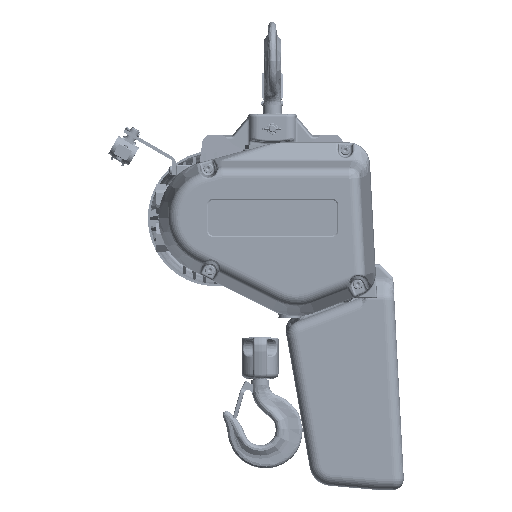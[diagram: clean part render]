
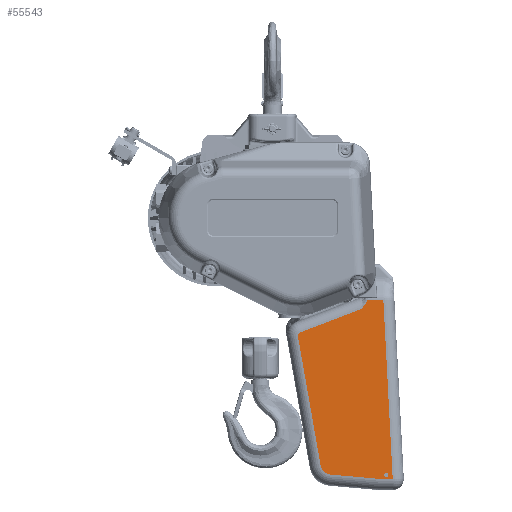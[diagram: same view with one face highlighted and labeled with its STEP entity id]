
A CAD part, top view. The second image highlights one B-rep face of the part: STEP entity #55543.
In plain terms, the highlighted planar face has unit normal (0, 0, 1).
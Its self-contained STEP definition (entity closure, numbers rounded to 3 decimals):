
#3869 = DIRECTION ( 'NONE',  ( 1., 0., 0. ) ) ;
#4990 = CARTESIAN_POINT ( 'NONE',  ( -4.915, -113.056, 70. ) ) ;
#6026 = CARTESIAN_POINT ( 'NONE',  ( 26.4, -100.733, 70. ) ) ;
#9952 = ORIENTED_EDGE ( 'NONE', *, *, #157328, .T. ) ;
#10700 = CARTESIAN_POINT ( 'NONE',  ( 33.958, -90.56, 70. ) ) ;
#13950 = DIRECTION ( 'NONE',  ( 0., 0., 1. ) ) ;
#14604 = FACE_BOUND ( 'NONE', #71183, .T. ) ;
#15780 = PLANE ( 'NONE',  #161063 ) ;
#18148 = CARTESIAN_POINT ( 'NONE',  ( 60., -326., 70. ) ) ;
#19905 = VERTEX_POINT ( 'NONE', #89718 ) ;
#21908 = EDGE_CURVE ( 'NONE', #164823, #30030, #202754, .T. ) ;
#22609 = ORIENTED_EDGE ( 'NONE', *, *, #82495, .T. ) ;
#22758 = LINE ( 'NONE', #205688, #77468 ) ;
#23681 = EDGE_CURVE ( 'NONE', #116251, #206066, #228133, .T. ) ;
#23918 = CARTESIAN_POINT ( 'NONE',  ( 32.1, -93.673, 70. ) ) ;
#25649 = AXIS2_PLACEMENT_3D ( 'NONE', #18148, #36092, #3869 ) ;
#25844 = EDGE_CURVE ( 'NONE', #30030, #164823, #182136, .T. ) ;
#28671 = CARTESIAN_POINT ( 'NONE',  ( 49.259, -331., 70. ) ) ;
#28856 = CARTESIAN_POINT ( 'NONE',  ( -15.387, -325.344, 70. ) ) ;
#29199 = CARTESIAN_POINT ( 'NONE',  ( -54.716, -137.528, 70. ) ) ;
#30030 = VERTEX_POINT ( 'NONE', #178047 ) ;
#31002 = CARTESIAN_POINT ( 'NONE',  ( -59.716, -137.528, 70. ) ) ;
#36092 = DIRECTION ( 'NONE',  ( 0., 0., 1. ) ) ;
#41816 = CARTESIAN_POINT ( 'NONE',  ( 26., -101.188, 70. ) ) ;
#41890 = DIRECTION ( 'NONE',  ( 0.174, -0.985, 0. ) ) ;
#48341 = VERTEX_POINT ( 'NONE', #61382 ) ;
#48426 = DIRECTION ( 'NONE',  ( -0.052, 0.999, 0. ) ) ;
#48946 = CARTESIAN_POINT ( 'NONE',  ( 57., -326., 70. ) ) ;
#50430 = CIRCLE ( 'NONE', #214651, 15. ) ;
#55543 = ADVANCED_FACE ( 'NONE', ( #14604, #213074 ), #15780, .F. ) ;
#59082 = ORIENTED_EDGE ( 'NONE', *, *, #21908, .F. ) ;
#59089 = EDGE_CURVE ( 'NONE', #107550, #139699, #111307, .T. ) ;
#60410 = B_SPLINE_CURVE_WITH_KNOTS ( 'NONE', 3,
 ( #169722, #10700, #156537, #23918, #225907, #229434, #96858, #207970, #65689, #60970, #138497, #6026, #82439, #41816 ),
 .UNSPECIFIED., .F., .F.,
 ( 4, 2, 2, 2, 2, 2, 4 ),
 ( 0., 0.004, 0.007, 0.011, 0.013, 0.014, 0.014 ),
 .UNSPECIFIED. ) ;
#60970 = CARTESIAN_POINT ( 'NONE',  ( 27., -100.048, 70. ) ) ;
#61382 = CARTESIAN_POINT ( 'NONE',  ( 56.038, -89.438, 70. ) ) ;
#62232 = LINE ( 'NONE', #4990, #123736 ) ;
#62828 = LINE ( 'NONE', #175205, #162663 ) ;
#65689 = CARTESIAN_POINT ( 'NONE',  ( 27.598, -99.362, 70. ) ) ;
#65931 = CARTESIAN_POINT ( 'NONE',  ( -56.508, -132.86, 70. ) ) ;
#67249 = CARTESIAN_POINT ( 'NONE',  ( 84.504, -346., 70. ) ) ;
#69923 = CARTESIAN_POINT ( 'NONE',  ( 60., -326., 70. ) ) ;
#71183 = EDGE_LOOP ( 'NONE', ( #130065, #59082 ) ) ;
#77468 = VECTOR ( 'NONE', #95715, 1000. ) ;
#79075 = VECTOR ( 'NONE', #41890, 1000. ) ;
#82439 = CARTESIAN_POINT ( 'NONE',  ( 26.199, -100.962, 70. ) ) ;
#82495 = EDGE_CURVE ( 'NONE', #231348, #165981, #62232, .T. ) ;
#84537 = AXIS2_PLACEMENT_3D ( 'NONE', #69923, #215736, #200133 ) ;
#85059 = EDGE_LOOP ( 'NONE', ( #143866, #101401, #22609, #151880, #155477, #183392, #108631, #9952, #125835, #208693 ) ) ;
#86701 = CARTESIAN_POINT ( 'NONE',  ( -54.716, -137.528, 70. ) ) ;
#89718 = CARTESIAN_POINT ( 'NONE',  ( 34.453, -89.438, 70. ) ) ;
#89916 = VECTOR ( 'NONE', #145683, 1000. ) ;
#95715 = DIRECTION ( 'NONE',  ( -1., 0., 0. ) ) ;
#96858 = CARTESIAN_POINT ( 'NONE',  ( 29.172, -97.516, 70. ) ) ;
#98582 = DIRECTION ( 'NONE',  ( 0., 0., 1. ) ) ;
#100174 = EDGE_CURVE ( 'NONE', #206212, #107550, #158262, .T. ) ;
#101039 = CIRCLE ( 'NONE', #185002, 5. ) ;
#101078 = EDGE_CURVE ( 'NONE', #206066, #48341, #62828, .T. ) ;
#101401 = ORIENTED_EDGE ( 'NONE', *, *, #226002, .T. ) ;
#103426 = DIRECTION ( 'NONE',  ( -1., 0., 0. ) ) ;
#104877 = AXIS2_PLACEMENT_3D ( 'NONE', #86701, #127157, #103426 ) ;
#107550 = VERTEX_POINT ( 'NONE', #205105 ) ;
#108631 = ORIENTED_EDGE ( 'NONE', *, *, #214553, .T. ) ;
#111307 = LINE ( 'NONE', #184230, #79075 ) ;
#116251 = VERTEX_POINT ( 'NONE', #28671 ) ;
#117163 = DIRECTION ( 'NONE',  ( -0.934, -0.358, 0. ) ) ;
#120903 = EDGE_CURVE ( 'NONE', #165981, #206212, #101039, .T. ) ;
#123449 = VERTEX_POINT ( 'NONE', #28856 ) ;
#123736 = VECTOR ( 'NONE', #117163, 1000. ) ;
#125835 = ORIENTED_EDGE ( 'NONE', *, *, #23681, .T. ) ;
#127157 = DIRECTION ( 'NONE',  ( 0., 0., 1. ) ) ;
#130065 = ORIENTED_EDGE ( 'NONE', *, *, #25844, .F. ) ;
#131069 = EDGE_CURVE ( 'NONE', #48341, #19905, #22758, .T. ) ;
#137191 = CARTESIAN_POINT ( 'NONE',  ( 84.504, -331., 70. ) ) ;
#138497 = CARTESIAN_POINT ( 'NONE',  ( 26.8, -100.277, 70. ) ) ;
#139699 = VERTEX_POINT ( 'NONE', #183644 ) ;
#143866 = ORIENTED_EDGE ( 'NONE', *, *, #131069, .T. ) ;
#145683 = DIRECTION ( 'NONE',  ( 0.996, -0.087, 0. ) ) ;
#151880 = ORIENTED_EDGE ( 'NONE', *, *, #120903, .T. ) ;
#155477 = ORIENTED_EDGE ( 'NONE', *, *, #100174, .T. ) ;
#156537 = CARTESIAN_POINT ( 'NONE',  ( 33.377, -91.624, 70. ) ) ;
#157328 = EDGE_CURVE ( 'NONE', #123449, #116251, #178098, .T. ) ;
#158262 = CIRCLE ( 'NONE', #104877, 5. ) ;
#161063 = AXIS2_PLACEMENT_3D ( 'NONE', #67249, #180719, #162763 ) ;
#162663 = VECTOR ( 'NONE', #48426, 1000. ) ;
#162763 = DIRECTION ( 'NONE',  ( 1., 0., 0. ) ) ;
#164823 = VERTEX_POINT ( 'NONE', #48946 ) ;
#165111 = CARTESIAN_POINT ( 'NONE',  ( 49.912, -331.057, 70. ) ) ;
#165981 = VERTEX_POINT ( 'NONE', #65931 ) ;
#169722 = CARTESIAN_POINT ( 'NONE',  ( 34.453, -89.438, 70. ) ) ;
#175205 = CARTESIAN_POINT ( 'NONE',  ( 55.752, -83.987, 70. ) ) ;
#178047 = CARTESIAN_POINT ( 'NONE',  ( 63., -326., 70. ) ) ;
#178098 = LINE ( 'NONE', #165111, #89916 ) ;
#180719 = DIRECTION ( 'NONE',  ( 0., 0., -1. ) ) ;
#182136 = CIRCLE ( 'NONE', #25649, 3. ) ;
#183392 = ORIENTED_EDGE ( 'NONE', *, *, #59089, .T. ) ;
#183644 = CARTESIAN_POINT ( 'NONE',  ( -28.852, -313.006, 70. ) ) ;
#184230 = CARTESIAN_POINT ( 'NONE',  ( -28.852, -313.006, 70. ) ) ;
#185002 = AXIS2_PLACEMENT_3D ( 'NONE', #29199, #98582, #225327 ) ;
#195708 = CARTESIAN_POINT ( 'NONE',  ( -14.08, -310.401, 70. ) ) ;
#200133 = DIRECTION ( 'NONE',  ( 1., 0., 0. ) ) ;
#202754 = CIRCLE ( 'NONE', #84537, 3. ) ;
#205105 = CARTESIAN_POINT ( 'NONE',  ( -59.64, -138.396, 70. ) ) ;
#205688 = CARTESIAN_POINT ( 'NONE',  ( 31., -89.438, 70. ) ) ;
#206066 = VERTEX_POINT ( 'NONE', #230652 ) ;
#206212 = VERTEX_POINT ( 'NONE', #31002 ) ;
#207970 = CARTESIAN_POINT ( 'NONE',  ( 27.995, -98.903, 70. ) ) ;
#208693 = ORIENTED_EDGE ( 'NONE', *, *, #101078, .T. ) ;
#210209 = DIRECTION ( 'NONE',  ( 1., 0., 0. ) ) ;
#213074 = FACE_OUTER_BOUND ( 'NONE', #85059, .T. ) ;
#214553 = EDGE_CURVE ( 'NONE', #139699, #123449, #50430, .T. ) ;
#214651 = AXIS2_PLACEMENT_3D ( 'NONE', #195708, #13950, #229181 ) ;
#215736 = DIRECTION ( 'NONE',  ( 0., 0., 1. ) ) ;
#225327 = DIRECTION ( 'NONE',  ( -1., 0., 0. ) ) ;
#225907 = CARTESIAN_POINT ( 'NONE',  ( 31.404, -94.659, 70. ) ) ;
#226002 = EDGE_CURVE ( 'NONE', #19905, #231348, #60410, .T. ) ;
#228133 = LINE ( 'NONE', #137191, #231354 ) ;
#229181 = DIRECTION ( 'NONE',  ( -1., 0., 0. ) ) ;
#229434 = CARTESIAN_POINT ( 'NONE',  ( 29.94, -96.58, 70. ) ) ;
#230652 = CARTESIAN_POINT ( 'NONE',  ( 68.697, -331., 70. ) ) ;
#231348 = VERTEX_POINT ( 'NONE', #232684 ) ;
#231354 = VECTOR ( 'NONE', #210209, 1000. ) ;
#232684 = CARTESIAN_POINT ( 'NONE',  ( 26., -101.188, 70. ) ) ;
